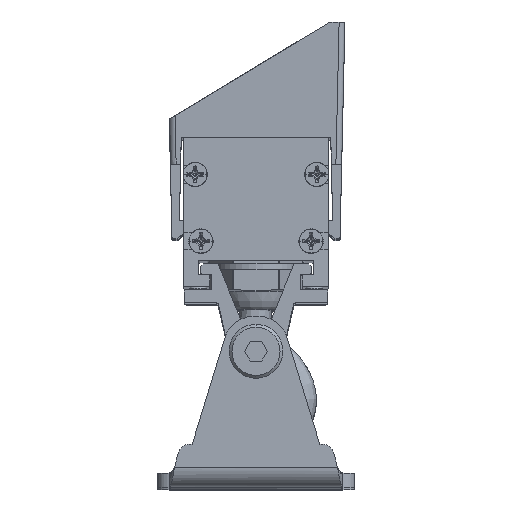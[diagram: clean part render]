
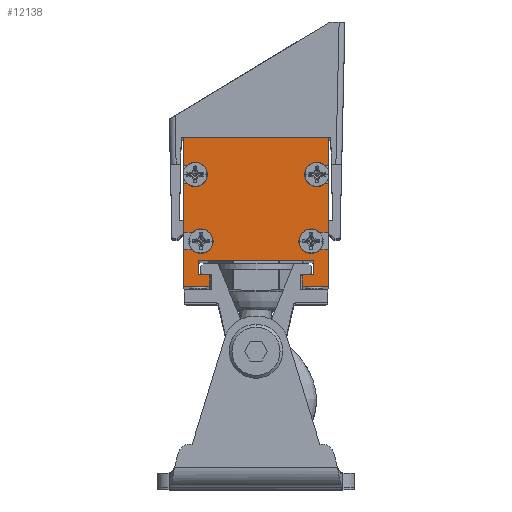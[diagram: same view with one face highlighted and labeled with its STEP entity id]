
A CAD part, top view. The second image highlights one B-rep face of the part: STEP entity #12138.
In plain terms, the highlighted planar face has unit normal (0, 0, 1) as drawn and (0, -1, 0) by its records, which use the part's own axes.
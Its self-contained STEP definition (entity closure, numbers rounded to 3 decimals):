
#6884=DIRECTION('',(-1.,0.,0.));
#6885=VECTOR('',#6884,20.);
#6886=CARTESIAN_POINT('',(10.,-503.5,8.813));
#6887=LINE('',#6886,#6885);
#8598=DIRECTION('',(1.,0.,0.));
#8599=VECTOR('',#8598,1.53);
#8600=CARTESIAN_POINT('',(-12.5,-503.5,7.013));
#8601=LINE('',#8600,#8599);
#8602=DIRECTION('',(0.,0.,1.));
#8603=VECTOR('',#8602,6.3);
#8604=CARTESIAN_POINT('',(-12.5,-503.5,7.013));
#8605=LINE('',#8604,#8603);
#8606=DIRECTION('',(0.,0.,-1.));
#8607=VECTOR('',#8606,6.3);
#8608=CARTESIAN_POINT('',(12.5,-503.5,13.313));
#8609=LINE('',#8608,#8607);
#8610=DIRECTION('',(-1.,0.,0.));
#8611=VECTOR('',#8610,1.53);
#8612=CARTESIAN_POINT('',(12.5,-503.5,7.013));
#8613=LINE('',#8612,#8611);
#8614=CARTESIAN_POINT('',(9.5,-503.5,5.513));
#8615=DIRECTION('',(0.,-1.,0.));
#8616=DIRECTION('',(0.7,0.,0.714));
#8617=AXIS2_PLACEMENT_3D('',#8614,#8615,#8616);
#8619=DIRECTION('',(-1.,0.,0.));
#8620=VECTOR('',#8619,1.53);
#8621=CARTESIAN_POINT('',(12.5,-503.5,4.013));
#8622=LINE('',#8621,#8620);
#8623=DIRECTION('',(0.,0.,-1.));
#8624=VECTOR('',#8623,8.513);
#8625=CARTESIAN_POINT('',(12.5,-503.5,4.013));
#8626=LINE('',#8625,#8624);
#8627=DIRECTION('',(-1.,0.,0.));
#8628=VECTOR('',#8627,0.53);
#8629=CARTESIAN_POINT('',(12.5,-503.5,-4.5));
#8630=LINE('',#8629,#8628);
#8631=CARTESIAN_POINT('',(10.5,-503.5,-6.));
#8632=DIRECTION('',(0.,-1.,0.));
#8633=DIRECTION('',(0.7,0.,0.714));
#8634=AXIS2_PLACEMENT_3D('',#8631,#8632,#8633);
#8636=DIRECTION('',(-1.,0.,0.));
#8637=VECTOR('',#8636,0.53);
#8638=CARTESIAN_POINT('',(12.5,-503.5,-7.5));
#8639=LINE('',#8638,#8637);
#8640=DIRECTION('',(0.,0.,-1.));
#8641=VECTOR('',#8640,4.787);
#8642=CARTESIAN_POINT('',(12.5,-503.5,-7.5));
#8643=LINE('',#8642,#8641);
#8644=DIRECTION('',(0.,0.,1.));
#8645=VECTOR('',#8644,4.787);
#8646=CARTESIAN_POINT('',(-12.5,-503.5,-12.287));
#8647=LINE('',#8646,#8645);
#8648=DIRECTION('',(1.,0.,0.));
#8649=VECTOR('',#8648,0.53);
#8650=CARTESIAN_POINT('',(-12.5,-503.5,-7.5));
#8651=LINE('',#8650,#8649);
#8652=CARTESIAN_POINT('',(-10.5,-503.5,-6.));
#8653=DIRECTION('',(0.,-1.,0.));
#8654=DIRECTION('',(-0.7,0.,-0.714));
#8655=AXIS2_PLACEMENT_3D('',#8652,#8653,#8654);
#8657=DIRECTION('',(1.,0.,0.));
#8658=VECTOR('',#8657,0.53);
#8659=CARTESIAN_POINT('',(-12.5,-503.5,-4.5));
#8660=LINE('',#8659,#8658);
#8661=DIRECTION('',(0.,0.,1.));
#8662=VECTOR('',#8661,8.513);
#8663=CARTESIAN_POINT('',(-12.5,-503.5,-4.5));
#8664=LINE('',#8663,#8662);
#8665=DIRECTION('',(1.,0.,0.));
#8666=VECTOR('',#8665,1.53);
#8667=CARTESIAN_POINT('',(-12.5,-503.5,4.013));
#8668=LINE('',#8667,#8666);
#8669=CARTESIAN_POINT('',(-9.5,-503.5,5.513));
#8670=DIRECTION('',(0.,-1.,0.));
#8671=DIRECTION('',(-0.7,0.,-0.714));
#8672=AXIS2_PLACEMENT_3D('',#8669,#8670,#8671);
#8782=DIRECTION('',(1.,0.,0.));
#8783=VECTOR('',#8782,25.);
#8784=CARTESIAN_POINT('',(-12.5,-503.5,-12.287));
#8785=LINE('',#8784,#8783);
#8972=DIRECTION('',(-1.,0.,0.));
#8973=VECTOR('',#8972,4.5);
#8974=CARTESIAN_POINT('',(-8.,-503.5,13.313));
#8975=LINE('',#8974,#8973);
#8980=DIRECTION('',(0.,0.,1.));
#8981=VECTOR('',#8980,2.);
#8982=CARTESIAN_POINT('',(-8.,-503.5,11.313));
#8983=LINE('',#8982,#8981);
#8988=DIRECTION('',(1.,0.,0.));
#8989=VECTOR('',#8988,2.);
#8990=CARTESIAN_POINT('',(-10.,-503.5,11.313));
#8991=LINE('',#8990,#8989);
#8996=DIRECTION('',(0.,0.,1.));
#8997=VECTOR('',#8996,2.5);
#8998=CARTESIAN_POINT('',(-10.,-503.5,8.813));
#8999=LINE('',#8998,#8997);
#9022=DIRECTION('',(0.,0.,-1.));
#9023=VECTOR('',#9022,2.5);
#9024=CARTESIAN_POINT('',(10.,-503.5,11.313));
#9025=LINE('',#9024,#9023);
#9026=DIRECTION('',(1.,0.,0.));
#9027=VECTOR('',#9026,2.);
#9028=CARTESIAN_POINT('',(8.,-503.5,11.313));
#9029=LINE('',#9028,#9027);
#9034=DIRECTION('',(0.,0.,-1.));
#9035=VECTOR('',#9034,2.);
#9036=CARTESIAN_POINT('',(8.,-503.5,13.313));
#9037=LINE('',#9036,#9035);
#9042=DIRECTION('',(-1.,0.,0.));
#9043=VECTOR('',#9042,4.5);
#9044=CARTESIAN_POINT('',(12.5,-503.5,13.313));
#9045=LINE('',#9044,#9043);
#9078=CARTESIAN_POINT('',(-10.,-503.5,8.813));
#9079=VERTEX_POINT('',#9078);
#9080=CARTESIAN_POINT('',(10.,-503.5,8.813));
#9081=VERTEX_POINT('',#9080);
#9082=CARTESIAN_POINT('',(-10.,-503.5,11.313));
#9083=VERTEX_POINT('',#9082);
#9084=CARTESIAN_POINT('',(-8.,-503.5,11.313));
#9085=CARTESIAN_POINT('',(-8.,-503.5,13.313));
#9086=VERTEX_POINT('',#9084);
#9087=VERTEX_POINT('',#9085);
#9088=CARTESIAN_POINT('',(10.,-503.5,11.313));
#9089=VERTEX_POINT('',#9088);
#9090=CARTESIAN_POINT('',(8.,-503.5,11.313));
#9091=VERTEX_POINT('',#9090);
#9092=CARTESIAN_POINT('',(8.,-503.5,13.313));
#9093=VERTEX_POINT('',#9092);
#9094=CARTESIAN_POINT('',(-12.5,-503.5,-12.287));
#9095=CARTESIAN_POINT('',(12.5,-503.5,-12.287));
#9096=VERTEX_POINT('',#9094);
#9097=VERTEX_POINT('',#9095);
#9098=CARTESIAN_POINT('',(12.5,-503.5,13.313));
#9099=VERTEX_POINT('',#9098);
#9100=CARTESIAN_POINT('',(-12.5,-503.5,13.313));
#9101=VERTEX_POINT('',#9100);
#9130=CARTESIAN_POINT('',(-12.5,-503.5,7.013));
#9131=CARTESIAN_POINT('',(-10.97,-503.5,7.013));
#9132=VERTEX_POINT('',#9130);
#9133=VERTEX_POINT('',#9131);
#9134=CARTESIAN_POINT('',(-12.5,-503.5,4.013));
#9135=CARTESIAN_POINT('',(-10.97,-503.5,4.013));
#9136=VERTEX_POINT('',#9134);
#9137=VERTEX_POINT('',#9135);
#9138=CARTESIAN_POINT('',(-12.5,-503.5,-4.5));
#9139=CARTESIAN_POINT('',(-11.97,-503.5,-4.5));
#9140=VERTEX_POINT('',#9138);
#9141=VERTEX_POINT('',#9139);
#9142=CARTESIAN_POINT('',(-12.5,-503.5,-7.5));
#9143=CARTESIAN_POINT('',(-11.97,-503.5,-7.5));
#9144=VERTEX_POINT('',#9142);
#9145=VERTEX_POINT('',#9143);
#9146=CARTESIAN_POINT('',(10.97,-503.5,7.013));
#9147=CARTESIAN_POINT('',(10.97,-503.5,4.013));
#9148=VERTEX_POINT('',#9146);
#9149=VERTEX_POINT('',#9147);
#9150=CARTESIAN_POINT('',(12.5,-503.5,4.013));
#9151=VERTEX_POINT('',#9150);
#9152=CARTESIAN_POINT('',(12.5,-503.5,7.013));
#9153=VERTEX_POINT('',#9152);
#9154=CARTESIAN_POINT('',(11.97,-503.5,-4.5));
#9155=CARTESIAN_POINT('',(11.97,-503.5,-7.5));
#9156=VERTEX_POINT('',#9154);
#9157=VERTEX_POINT('',#9155);
#9158=CARTESIAN_POINT('',(12.5,-503.5,-7.5));
#9159=VERTEX_POINT('',#9158);
#9160=CARTESIAN_POINT('',(12.5,-503.5,-4.5));
#9161=VERTEX_POINT('',#9160);
#12083=CARTESIAN_POINT('',(0.,-503.5,0.323));
#12084=DIRECTION('',(0.,-1.,0.));
#12085=DIRECTION('',(1.,0.,0.));
#12086=AXIS2_PLACEMENT_3D('',#12083,#12084,#12085);
#12087=PLANE('',#12086);
#12089=ORIENTED_EDGE('',*,*,#12088,.F.);
#12091=ORIENTED_EDGE('',*,*,#12090,.T.);
#12093=ORIENTED_EDGE('',*,*,#12092,.F.);
#12095=ORIENTED_EDGE('',*,*,#12094,.F.);
#12097=ORIENTED_EDGE('',*,*,#12096,.F.);
#12099=ORIENTED_EDGE('',*,*,#12098,.F.);
#12100=ORIENTED_EDGE('',*,*,#9745,.F.);
#12102=ORIENTED_EDGE('',*,*,#12101,.F.);
#12104=ORIENTED_EDGE('',*,*,#12103,.F.);
#12106=ORIENTED_EDGE('',*,*,#12105,.F.);
#12108=ORIENTED_EDGE('',*,*,#12107,.F.);
#12109=ORIENTED_EDGE('',*,*,#11977,.T.);
#12111=ORIENTED_EDGE('',*,*,#12110,.T.);
#12112=ORIENTED_EDGE('',*,*,#11939,.T.);
#12113=ORIENTED_EDGE('',*,*,#11955,.F.);
#12114=ORIENTED_EDGE('',*,*,#11971,.T.);
#12116=ORIENTED_EDGE('',*,*,#12115,.T.);
#12117=ORIENTED_EDGE('',*,*,#12062,.T.);
#12118=ORIENTED_EDGE('',*,*,#12077,.F.);
#12119=ORIENTED_EDGE('',*,*,#11984,.T.);
#12121=ORIENTED_EDGE('',*,*,#12120,.F.);
#12123=ORIENTED_EDGE('',*,*,#12122,.T.);
#12125=ORIENTED_EDGE('',*,*,#12124,.T.);
#12127=ORIENTED_EDGE('',*,*,#12126,.T.);
#12129=ORIENTED_EDGE('',*,*,#12128,.F.);
#12131=ORIENTED_EDGE('',*,*,#12130,.T.);
#12133=ORIENTED_EDGE('',*,*,#12132,.T.);
#12135=ORIENTED_EDGE('',*,*,#12134,.T.);
#12136=EDGE_LOOP('',(#12089,#12091,#12093,#12095,#12097,#12099,#12100,#12102,
#12104,#12106,#12108,#12109,#12111,#12112,#12113,#12114,#12116,#12117,#12118,
#12119,#12121,#12123,#12125,#12127,#12129,#12131,#12133,#12135));
#12137=FACE_OUTER_BOUND('',#12136,.F.);
#12138=ADVANCED_FACE('',(#12137),#12087,.T.);
#8618=CIRCLE('',#8617,2.1);
#8635=CIRCLE('',#8634,2.1);
#8656=CIRCLE('',#8655,2.1);
#8673=CIRCLE('',#8672,2.1);
#9745=EDGE_CURVE('',#9081,#9079,#6887,.T.);
#11939=EDGE_CURVE('',#9148,#9149,#8618,.T.);
#11955=EDGE_CURVE('',#9151,#9149,#8622,.T.);
#11971=EDGE_CURVE('',#9151,#9161,#8626,.T.);
#11977=EDGE_CURVE('',#9099,#9153,#8609,.T.);
#11984=EDGE_CURVE('',#9159,#9097,#8643,.T.);
#12062=EDGE_CURVE('',#9156,#9157,#8635,.T.);
#12077=EDGE_CURVE('',#9159,#9157,#8639,.T.);
#12088=EDGE_CURVE('',#9132,#9133,#8601,.T.);
#12090=EDGE_CURVE('',#9132,#9101,#8605,.T.);
#12092=EDGE_CURVE('',#9087,#9101,#8975,.T.);
#12094=EDGE_CURVE('',#9086,#9087,#8983,.T.);
#12096=EDGE_CURVE('',#9083,#9086,#8991,.T.);
#12098=EDGE_CURVE('',#9079,#9083,#8999,.T.);
#12101=EDGE_CURVE('',#9089,#9081,#9025,.T.);
#12103=EDGE_CURVE('',#9091,#9089,#9029,.T.);
#12105=EDGE_CURVE('',#9093,#9091,#9037,.T.);
#12107=EDGE_CURVE('',#9099,#9093,#9045,.T.);
#12110=EDGE_CURVE('',#9153,#9148,#8613,.T.);
#12115=EDGE_CURVE('',#9161,#9156,#8630,.T.);
#12120=EDGE_CURVE('',#9096,#9097,#8785,.T.);
#12122=EDGE_CURVE('',#9096,#9144,#8647,.T.);
#12124=EDGE_CURVE('',#9144,#9145,#8651,.T.);
#12126=EDGE_CURVE('',#9145,#9141,#8656,.T.);
#12128=EDGE_CURVE('',#9140,#9141,#8660,.T.);
#12130=EDGE_CURVE('',#9140,#9136,#8664,.T.);
#12132=EDGE_CURVE('',#9136,#9137,#8668,.T.);
#12134=EDGE_CURVE('',#9137,#9133,#8673,.T.);
